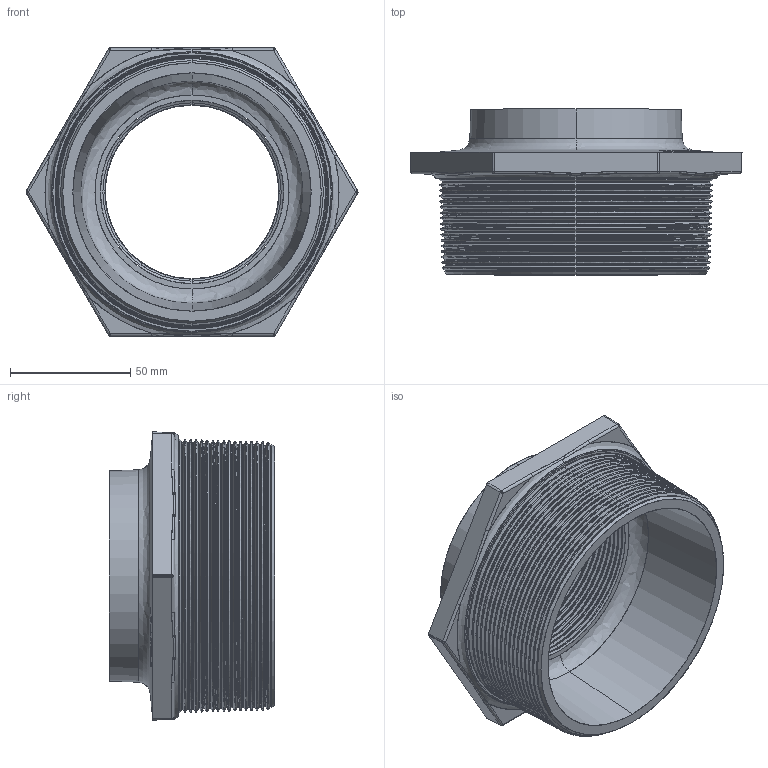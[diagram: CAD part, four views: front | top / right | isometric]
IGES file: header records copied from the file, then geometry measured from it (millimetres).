
Start section: SolidWorks IGES file using analytic representation for surfaces
Global section: file name: C:\Users\Joel Rosa\Desktop\Tubulação\12-01-OK\12-01-059.IGS; native system: SolidWorks 2011; preprocessor: SolidWorks 2011; author: Joel Rosa; date: 121203.202516; units: millimetre
Bounding box: 138.25 x 69 x 120 mm (x, y, z)
Surface area: 67870.1 mm2 (no closed solid volume)
Topology: 0 solids, 0 shells, 481 faces, 3988 edges, 3988 vertices
Faces by surface type: bspline 316, revolution 165
